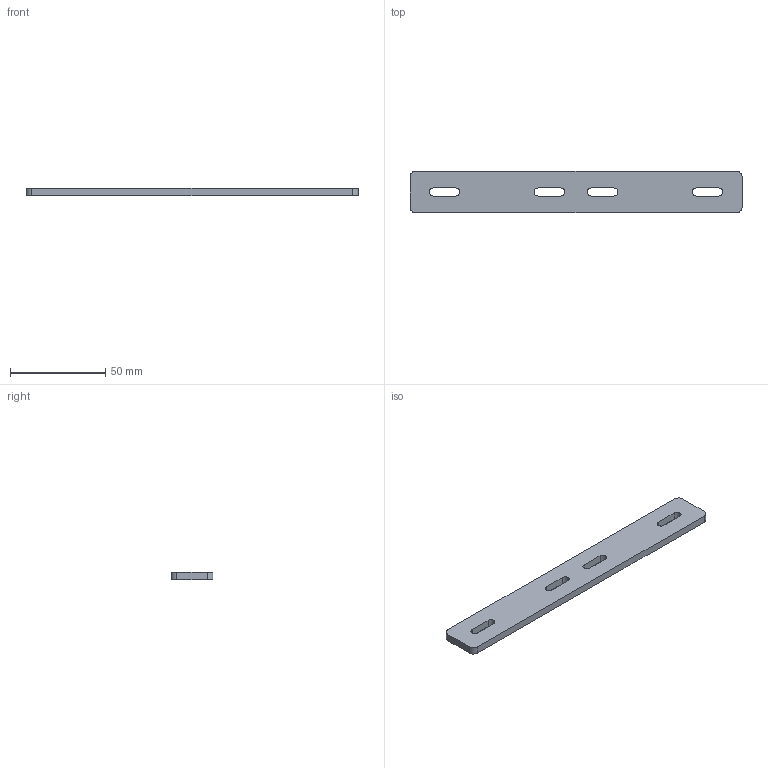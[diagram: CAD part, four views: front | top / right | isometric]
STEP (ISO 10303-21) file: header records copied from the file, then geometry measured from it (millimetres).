
FILE_DESCRIPTION(('Open CASCADE Model'),'2;1');
FILE_NAME('Open CASCADE Shape Model','2026-09-20T04:25:33',('Author'),( 'Open CASCADE'),'Open CASCADE STEP processor 7.9','Open CASCADE 7.9' ,'Unknown');
FILE_SCHEMA(('AUTOMOTIVE_DESIGN { 1 0 10303 214 1 1 1 1 }'));
Length unit declared in the file: millimetre
Products named in the file (1): Open CASCADE STEP translator 7.9 9
Bounding box: 174 x 22 x 4 mm (x, y, z)
Volume: 14266.5 mm3; surface area: 9269.3 mm2
Topology: 1 solids, 1 shells, 26 faces, 72 edges, 48 vertices
Faces by surface type: plane 14, cylinder 12
Entity records: 1846 total; most frequent: CARTESIAN_POINT 427, DIRECTION 258, LINE 152, VECTOR 152, ORIENTED_EDGE 144, PCURVE 144, DEFINITIONAL_REPRESENTATION 144, EDGE_CURVE 72
